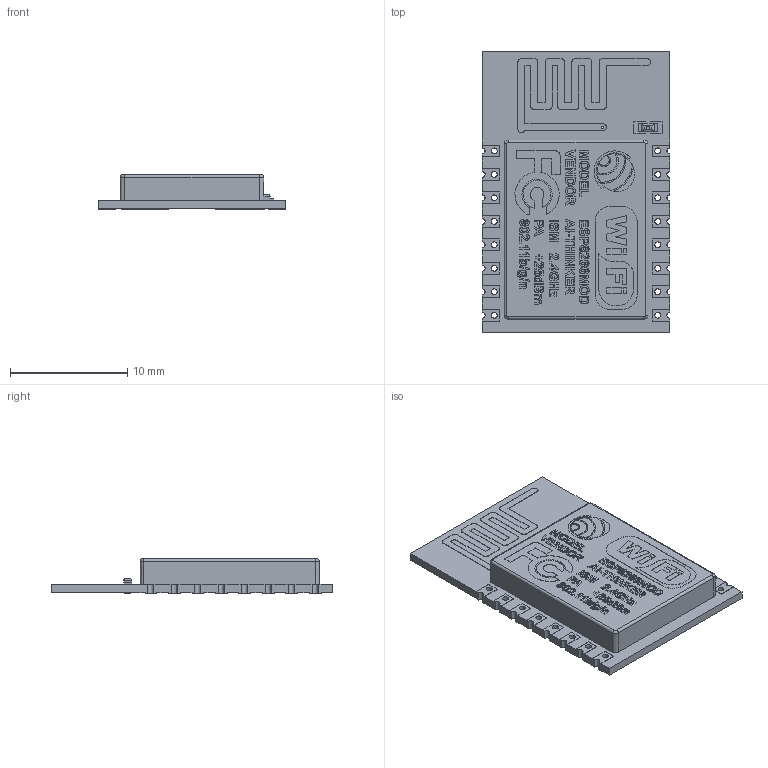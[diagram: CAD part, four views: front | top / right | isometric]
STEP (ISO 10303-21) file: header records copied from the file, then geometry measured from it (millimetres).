
FILE_DESCRIPTION(('STEP AP214'), '1');
FILE_NAME('ESP-12', '2017-08-15T18:13:22', ('Admin'), ('Home'), 'ASCON STEP Converter 1.3', 'ASCON Math Kernel', '');
FILE_SCHEMA(('AUTOMOTIVE_DESIGN { 1 0 10303 214 3 1 1}'));
Length unit declared in the file: millimetre
Bounding box: 16 x 24 x 2.95 mm (x, y, z)
Volume: 678.2 mm3; surface area: 984 mm2
Topology: 1 solids, 1 shells, 2799 faces, 7758 edges, 5168 vertices
Faces by surface type: extrusion 1504, plane 1280, cylinder 11, bspline 4
Full cylindrical faces by diameter (mm): 0.2 x1, 0.3 x1, 0.535 x1
Entity records: 118173 total; most frequent: CARTESIAN_POINT 30054, ORIENTED_EDGE 15478, DIRECTION 8825, EDGE_CURVE 7739, VECTOR 6211, VERTEX_POINT 5168, LINE 4707, B_SPLINE_CURVE_WITH_KNOTS 4517
